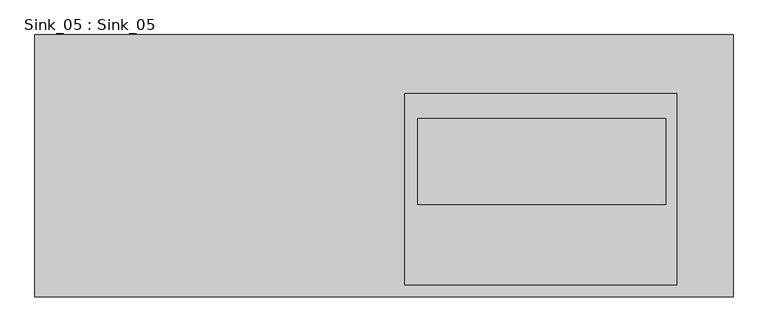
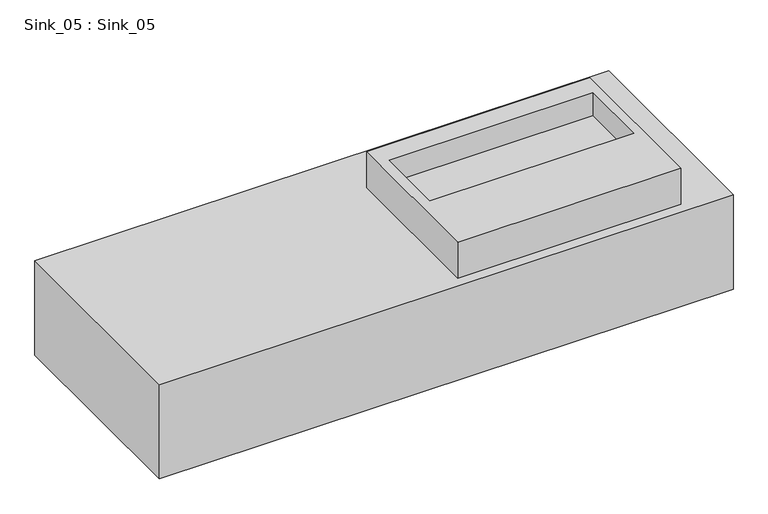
"""IFC4 building model written with IfcOpenShell, lengths in millimetres: flow terminal geometry, Sink_05 : Sink_05."""

from ifc_helpers import new_model, si_unit, origin, place, context, project, spatial, faceted_brep, source, transform, mapped, element, save


def sink_05_sink_05_83cbb9c2(model_context):
    return source(origin(), model_context, "Body", "Brep", [
        faceted_brep([(-3289.969965, 5865.1560668, 4173.1393181), (-3289.969965, 5208.2374199, 4173.1393181), (-1542.6989418, 5208.2374199, 4173.1393181), (-1542.6989418, 5865.1560668, 4173.1393181), (-2364.1842501, 5718.2932553, 4173.1393181), (-1684.1842501, 5718.2932553, 4173.1393181), (-1684.1842501, 5238.2932553, 4173.1393181), (-2364.1842501, 5238.2932553, 4173.1393181), (-3289.969965, 5865.1560668, 3869.2870886), (-1542.6989418, 5865.1560668, 3869.2870886), (-1542.6989418, 5208.2374199, 3869.2870886), (-3289.969965, 5208.2374199, 3869.2870886), (-1684.1842501, 5718.2932553, 4289.1389191), (-2364.1842501, 5718.2932553, 4289.1389191), (-2364.1842501, 5238.2932553, 4289.1389191), (-1684.1842501, 5238.2932553, 4289.1389191), (-2331.791225, 5655.5129966, 4289.1389191), (-1711.791225, 5655.5129966, 4289.1389191), (-1711.791225, 5440.5129966, 4289.1389191), (-2331.791225, 5440.5129966, 4289.1389191), (-1711.791225, 5655.5129966, 4215.3789219), (-2331.791225, 5655.5129966, 4215.3789219), (-2331.791225, 5440.5129966, 4215.3789219), (-1711.791225, 5440.5129966, 4215.3789219)], [[[0, 1, 2, 3], [4, 5, 6, 7]], [[8, 9, 10, 11]], [[1, 0, 8, 11]], [[2, 1, 11, 10]], [[3, 2, 10, 9]], [[0, 3, 9, 8]], [[12, 13, 14, 15], [16, 17, 18, 19]], [[13, 12, 5, 4]], [[14, 13, 4, 7]], [[15, 14, 7, 6]], [[12, 15, 6, 5]], [[20, 21, 22, 23]], [[21, 20, 17, 16]], [[22, 21, 16, 19]], [[23, 22, 19, 18]], [[20, 23, 18, 17]]]),
    ])


if __name__ == "__main__":
    model = new_model("IFC4")
    model_context = context("Model", 3, world=origin())
    ifc_project = project(units=[si_unit("LENGTHUNIT", "METRE", prefix="MILLI")], contexts=[model_context])
    site = spatial("IfcSite", under=ifc_project)
    building = spatial("IfcBuilding", under=site)
    placement = place(None, origin())
    sink_05_sink_05_shape = sink_05_sink_05_83cbb9c2(model_context)
    element("IfcFlowTerminal", 1, ObjectType="Sink_05 : Sink_05", at=placement, inside=building, context=model_context, shape_type="MappedRepresentation", body=[
        mapped(sink_05_sink_05_shape, transform((0.0, 0.0, 0.0), x_axis=(1.0, 0.0, 0.0), y_axis=(0.0, 1.0, 0.0), z_axis=(0.0, 0.0, 1.0))),
    ])
    save(model, "model.ifc")
